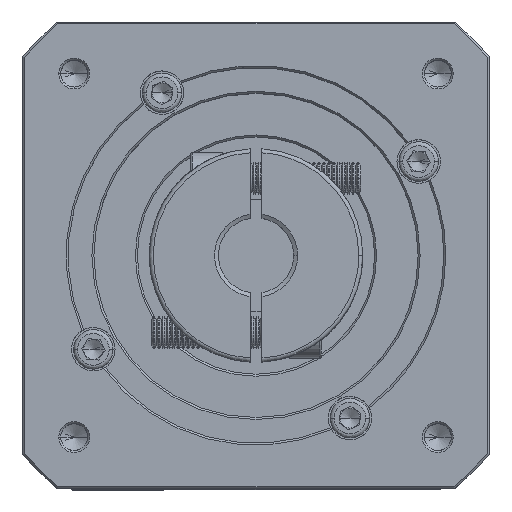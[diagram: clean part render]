
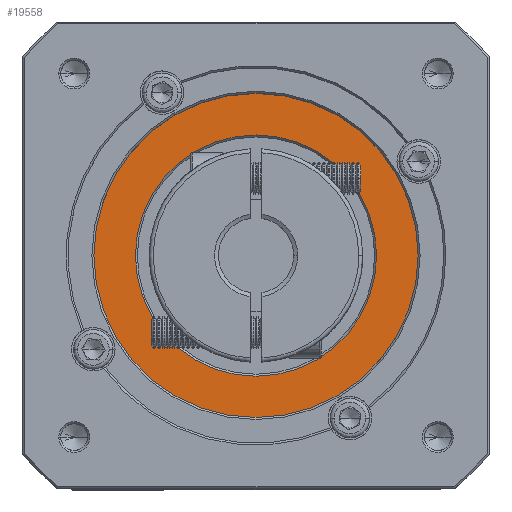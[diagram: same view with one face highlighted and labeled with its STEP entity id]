
A CAD part, top view. The second image highlights one B-rep face of the part: STEP entity #19558.
In plain terms, the highlighted planar face has unit normal (0, 0, 1).
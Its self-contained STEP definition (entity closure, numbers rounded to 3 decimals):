
#6987 = ORIENTED_EDGE ( 'NONE', *, *, #82914, .T. ) ;
#8303 = VERTEX_POINT ( 'NONE', #10647 ) ;
#8448 = CARTESIAN_POINT ( 'NONE',  ( 33.129, 105.589, -16.106 ) ) ;
#10647 = CARTESIAN_POINT ( 'NONE',  ( 74.129, 75.089, -16.106 ) ) ;
#12032 = CARTESIAN_POINT ( 'NONE',  ( 74.129, 105.589, -16.106 ) ) ;
#16167 = ORIENTED_EDGE ( 'NONE', *, *, #39263, .T. ) ;
#16589 = CIRCLE ( 'NONE', #103638, 30.5 ) ;
#19558 = ADVANCED_FACE ( 'NONE', ( #41426, #53319 ), #27406, .T. ) ;
#20286 = CIRCLE ( 'NONE', #80955, 41. ) ;
#21672 = ORIENTED_EDGE ( 'NONE', *, *, #74834, .T. ) ;
#21957 = DIRECTION ( 'NONE',  ( 0., 0., 1. ) ) ;
#23297 = DIRECTION ( 'NONE',  ( 1., 0., 0. ) ) ;
#24547 = CARTESIAN_POINT ( 'NONE',  ( 74.129, 105.589, -16.106 ) ) ;
#27406 = PLANE ( 'NONE',  #68338 ) ;
#31973 = DIRECTION ( 'NONE',  ( 0., 0., -1. ) ) ;
#33054 = DIRECTION ( 'NONE',  ( 0., -1., 0. ) ) ;
#35919 = CARTESIAN_POINT ( 'NONE',  ( 74.129, 105.589, -16.106 ) ) ;
#36645 = EDGE_LOOP ( 'NONE', ( #16167, #40871 ) ) ;
#39263 = EDGE_CURVE ( 'NONE', #8303, #69510, #16589, .T. ) ;
#40871 = ORIENTED_EDGE ( 'NONE', *, *, #104102, .T. ) ;
#41426 = FACE_OUTER_BOUND ( 'NONE', #81540, .T. ) ;
#48349 = CARTESIAN_POINT ( 'NONE',  ( 74.129, 105.589, -16.106 ) ) ;
#52894 = DIRECTION ( 'NONE',  ( 1., 0., 0. ) ) ;
#53319 = FACE_BOUND ( 'NONE', #36645, .T. ) ;
#55170 = VERTEX_POINT ( 'NONE', #8448 ) ;
#65510 = CARTESIAN_POINT ( 'NONE',  ( 74.129, 105.589, -16.106 ) ) ;
#67297 = CARTESIAN_POINT ( 'NONE',  ( 115.129, 105.589, -16.106 ) ) ;
#68338 = AXIS2_PLACEMENT_3D ( 'NONE', #35919, #95057, #52894 ) ;
#69510 = VERTEX_POINT ( 'NONE', #105474 ) ;
#74078 = AXIS2_PLACEMENT_3D ( 'NONE', #48349, #74627, #82041 ) ;
#74627 = DIRECTION ( 'NONE',  ( 0., 0., -1. ) ) ;
#74834 = EDGE_CURVE ( 'NONE', #55170, #83085, #83349, .T. ) ;
#78718 = CIRCLE ( 'NONE', #74078, 30.5 ) ;
#79339 = AXIS2_PLACEMENT_3D ( 'NONE', #12032, #21957, #88529 ) ;
#80955 = AXIS2_PLACEMENT_3D ( 'NONE', #65510, #100520, #23297 ) ;
#81540 = EDGE_LOOP ( 'NONE', ( #6987, #21672 ) ) ;
#82041 = DIRECTION ( 'NONE',  ( 0., -1., 0. ) ) ;
#82914 = EDGE_CURVE ( 'NONE', #83085, #55170, #20286, .T. ) ;
#83085 = VERTEX_POINT ( 'NONE', #67297 ) ;
#83349 = CIRCLE ( 'NONE', #79339, 41. ) ;
#88529 = DIRECTION ( 'NONE',  ( 1., 0., 0. ) ) ;
#95057 = DIRECTION ( 'NONE',  ( 0., 0., 1. ) ) ;
#100520 = DIRECTION ( 'NONE',  ( 0., 0., 1. ) ) ;
#103638 = AXIS2_PLACEMENT_3D ( 'NONE', #24547, #31973, #33054 ) ;
#104102 = EDGE_CURVE ( 'NONE', #69510, #8303, #78718, .T. ) ;
#105474 = CARTESIAN_POINT ( 'NONE',  ( 74.129, 136.089, -16.106 ) ) ;
